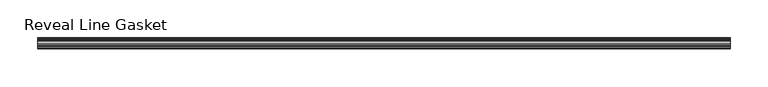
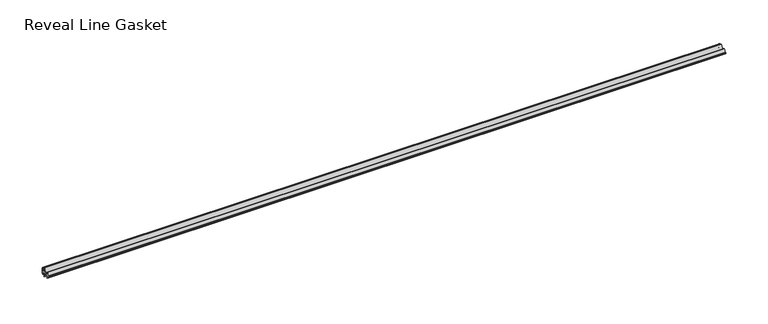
"""IFC4 building model written with IfcOpenShell, lengths in millimetres: proxy geometry, Accessories-Teknion-FHGR-AI_Healthcare-Reveal_Line_Gasket(Horizontal)-R2022 : Reveal Line Gasket."""

import ifcopenshell
import ifcopenshell.guid

model = None  # the IFC model being written
_history = None  # IfcOwnerHistory: only IFC2X3 demands one
_inside = {}  # id of a spatial element -> (the spatial element, [elements in it])
_under = {}  # id of a project, library or spatial element -> (it, [spatial elements below it])
_declared = {}  # id of a project -> (the project, [libraries it declares])
_typed = {}  # id of a type object -> (the type object, [elements of that type])
_made_of = {}  # id of a material, layer set ... -> (it, [elements and type objects made of it])


def new_model(schema):
    """Start an empty IFC model of exactly this schema.

    Asked for "IFC4X3", IfcOpenShell would pick the latest addendum, in which some entities
    have other attributes; the version numbers below select the first issue.
    IFC2X3 requires an IfcOwnerHistory on every rooted entity: one is made here for all.
    """
    global model, _history
    if schema == "IFC4X3":
        model = ifcopenshell.file(schema_version=(4, 3, 0, 0))
    else:
        model = ifcopenshell.file(schema=schema)
    _inside.clear()
    _under.clear()
    _declared.clear()
    _typed.clear()
    _made_of.clear()
    _history = None
    if model.schema == "IFC2X3":
        org = make("IfcOrganization", Name="unknown")
        user = make(
            "IfcPersonAndOrganization",
            ThePerson=make("IfcPerson", FamilyName="unknown"),
            TheOrganization=org,
        )
        app = make(
            "IfcApplication",
            ApplicationDeveloper=org,
            Version="unknown",
            ApplicationFullName="unknown",
            ApplicationIdentifier="unknown",
        )
        _history = make(
            "IfcOwnerHistory",
            OwningUser=user,
            OwningApplication=app,
            ChangeAction="ADDED",
            CreationDate=0,
        )
    return model


def make(cls, **values):
    """One entity of the class cls with the attributes given. An attribute that is None is left unset."""
    return model.create_entity(
        cls, **{name: value for name, value in values.items() if value is not None}
    )


def rooted(cls, **values):
    """An entity with a GlobalId (a new one), such as an element, a storey or a relation."""
    return make(cls, GlobalId=ifcopenshell.guid.new(), OwnerHistory=_history, **values)


def si_unit(unit_type, name, prefix=None):
    """IfcSIUnit, for example si_unit("LENGTHUNIT", "METRE", prefix="MILLI")."""
    return make("IfcSIUnit", UnitType=unit_type, Prefix=prefix, Name=name)


def assignment(units):
    """IfcUnitAssignment: the units of a project."""
    return None if units is None else make("IfcUnitAssignment", Units=units)


def point(xyz):
    """IfcCartesianPoint."""
    return None if xyz is None else make("IfcCartesianPoint", Coordinates=xyz)


def direction(xyz):
    """IfcDirection."""
    return None if xyz is None else make("IfcDirection", DirectionRatios=xyz)


def frame(location, z_axis=None, x_axis=None):
    """IfcAxis2Placement3D, a coordinate frame: its origin and axes. An axis left out is left unset."""
    return make(
        "IfcAxis2Placement3D",
        Location=point(location),
        Axis=direction(z_axis),
        RefDirection=direction(x_axis),
    )


def frame_2d(location, x_axis=None):
    """IfcAxis2Placement2D, a coordinate frame in the plane: its origin and x axis."""
    return make(
        "IfcAxis2Placement2D", Location=point(location), RefDirection=direction(x_axis)
    )


def origin():
    """The frame at (0, 0, 0) with its axes left unset."""
    return frame((0.0, 0.0, 0.0))


def place(relative_to, where):
    """IfcLocalPlacement: puts the frame where relative to a parent placement (None: the world)."""
    return make(
        "IfcLocalPlacement", PlacementRelTo=relative_to, RelativePlacement=where
    )


def context(
    kind, dimensions, precision=None, world=None, true_north=None, identifier=None
):
    """IfcGeometricRepresentationContext, for example the 3D "Model" context."""
    return make(
        "IfcGeometricRepresentationContext",
        ContextIdentifier=identifier,
        ContextType=kind,
        CoordinateSpaceDimension=dimensions,
        Precision=precision,
        WorldCoordinateSystem=world,
        TrueNorth=true_north,
    )


def project(units=None, contexts=None):
    """IfcProject with its units and contexts."""
    return rooted(
        "IfcProject",
        Name="project",
        RepresentationContexts=contexts,
        UnitsInContext=assignment(units),
    )


def spatial(cls, under=None, at=None, **own):
    """A site, building, storey or space (cls), placed at a placement, below another one or the project."""
    s = rooted(cls, ObjectPlacement=at, **own)
    if under is not None:
        _under.setdefault(under.id(), (under, []))[1].append(s)
    return s


def polyline(points):
    """IfcPolyline through the points."""
    return make("IfcPolyline", Points=[point(p) for p in points])


def circle_curve(where, radius):
    """IfcCircle in the frame where."""
    return make("IfcCircle", Position=where, Radius=radius)


def trimmed(basis, trim1, trim2, sense, master):
    """IfcTrimmedCurve: the piece of a basis curve between two trims."""
    return make(
        "IfcTrimmedCurve",
        BasisCurve=basis,
        Trim1=trim1,
        Trim2=trim2,
        SenseAgreement=sense,
        MasterRepresentation=master,
    )


def segment(curve, same_sense, transition):
    """IfcCompositeCurveSegment."""
    return make(
        "IfcCompositeCurveSegment",
        Transition=transition,
        SameSense=same_sense,
        ParentCurve=curve,
    )


def composite_curve(segments, self_intersect=None):
    """IfcCompositeCurve: segments joined end to end."""
    return make("IfcCompositeCurve", Segments=segments, SelfIntersect=self_intersect)


def outline(outer, holes=None, kind="AREA"):
    """IfcArbitraryClosedProfileDef: a profile drawn as a closed curve; with holes, ...WithVoids."""
    if holes is None:
        return make("IfcArbitraryClosedProfileDef", ProfileType=kind, OuterCurve=outer)
    return make(
        "IfcArbitraryProfileDefWithVoids",
        ProfileType=kind,
        OuterCurve=outer,
        InnerCurves=holes,
    )


def extrude(swept, where, along, depth):
    """IfcExtrudedAreaSolid: the profile swept, set in the frame where, extruded along a direction by depth."""
    return make(
        "IfcExtrudedAreaSolid",
        SweptArea=swept,
        Position=where,
        ExtrudedDirection=direction(along),
        Depth=depth,
    )


def shape(context_of_items, identifier, shape_type, items):
    """IfcShapeRepresentation: the items that make up one representation, for example the "Body"."""
    return make(
        "IfcShapeRepresentation",
        ContextOfItems=context_of_items,
        RepresentationIdentifier=identifier,
        RepresentationType=shape_type,
        Items=items,
    )


def source(mapping_origin, context_of_items, identifier, shape_type, items):
    """IfcRepresentationMap: a shape defined once, which mapped items show again and again."""
    return make(
        "IfcRepresentationMap",
        MappingOrigin=mapping_origin,
        MappedRepresentation=shape(context_of_items, identifier, shape_type, items),
    )


def transform(
    local_origin,
    x_axis=None,
    y_axis=None,
    z_axis=None,
    scale=None,
    scale2=None,
    scale3=None,
    uniform=True,
):
    """IfcCartesianTransformationOperator3D, or its non-uniform kind. x_axis, y_axis, z_axis: its Axis1, 2, 3."""
    if uniform:
        return make(
            "IfcCartesianTransformationOperator3D",
            Axis1=direction(x_axis),
            Axis2=direction(y_axis),
            LocalOrigin=point(local_origin),
            Scale=scale,
            Axis3=direction(z_axis),
        )
    return make(
        "IfcCartesianTransformationOperator3DnonUniform",
        Axis1=direction(x_axis),
        Axis2=direction(y_axis),
        LocalOrigin=point(local_origin),
        Scale=scale,
        Axis3=direction(z_axis),
        Scale2=scale2,
        Scale3=scale3,
    )


def mapped(mapping_source, mapping_target):
    """IfcMappedItem: shows the shape of a source again, moved by a transform."""
    return make(
        "IfcMappedItem", MappingSource=mapping_source, MappingTarget=mapping_target
    )


def made_of(thing, what):
    """Note that an element or type object is made of a material, layer set ...; save() writes the relation."""
    if what is not None:
        _made_of.setdefault(what.id(), (what, []))[1].append(thing)
    return thing


def element(
    cls,
    number,
    at=None,
    inside=None,
    cuts=None,
    type_object=None,
    material=None,
    context=None,
    identifier="Body",
    shape_type=None,
    held_by="IfcProductDefinitionShape",
    body=None,
    shapes=None,
    **own,
):
    """One element of the class cls, such as IfcWall. Its Tag is "e" and its number.

    at: its placement. inside: the storey or other place that contains it. cuts: it is an
    opening in that element (IfcRelVoidsElement). A single representation is given by context,
    identifier, shape_type and body (its items); several are given by shapes. held_by: the class
    of the entity that holds the representations. save() writes the other relations.
    """
    e = rooted(cls, Tag="e%d" % number, ObjectPlacement=at, **own)
    if body is not None:
        shapes = [shape(context, identifier, shape_type, body)]
    if shapes is not None:
        e.Representation = make(held_by, Representations=shapes)
    if inside is not None:
        _inside.setdefault(inside.id(), (inside, []))[1].append(e)
    if cuts is not None:
        rooted(
            "IfcRelVoidsElement", RelatingBuildingElement=cuts, RelatedOpeningElement=e
        )
    if type_object is not None:
        _typed.setdefault(type_object.id(), (type_object, []))[1].append(e)
    return made_of(e, material)


def aggregate(whole, parts):
    """IfcRelAggregates: a whole, such as a stair, and the parts it consists of."""
    return rooted("IfcRelAggregates", RelatingObject=whole, RelatedObjects=parts)


def save(model, path):
    """Write the relations noted so far, then the file.

    IfcRelAggregates (storeys below a building ...), IfcRelContainedInSpatialStructure (elements
    in a storey), IfcRelDefinesByType, IfcRelAssociatesMaterial and IfcRelDeclares: one each for
    every whole, place, type object, material and project.
    """
    for whole, parts in _under.values():
        aggregate(whole, parts)
    for where, things in _inside.values():
        rooted(
            "IfcRelContainedInSpatialStructure",
            RelatedElements=things,
            RelatingStructure=where,
        )
    for kind, things in _typed.values():
        rooted("IfcRelDefinesByType", RelatedObjects=things, RelatingType=kind)
    for what, things in _made_of.values():
        rooted("IfcRelAssociatesMaterial", RelatedObjects=things, RelatingMaterial=what)
    for by, libraries in _declared.values():
        rooted("IfcRelDeclares", RelatingContext=by, RelatedDefinitions=libraries)
    model.write(path)


def reveal_line_gasket_ee2313f6(model_context):
    return source(origin(), model_context, "Body", "SweptSolid", [
        extrude(outline(composite_curve([segment(polyline([(7.6326998, 1603.2), (7.6326998, 1597.2), (7.4091917, 1596.2445073), (6.8813059, 1595.3115316)]), True, "CONTINUOUS"), segment(trimmed(circle_curve(frame_2d((6.5243141, 1595.5135207)), 0.4101739), [point((6.8813059, 1595.3115316))], [point((6.1246704, 1595.6058653))], False, "CARTESIAN"), True, "CONTINUOUS"), segment(polyline([(6.1246704, 1595.6058653), (6.3626997, 1597.3020914), (6.3626997, 1599.3345473)]), True, "CONTINUOUS"), segment(trimmed(circle_curve(frame_2d((5.6959605, 1598.9180742)), 0.786124), [point((6.3626997, 1599.3345473))], [point((5.0926996, 1599.422125))], True, "CARTESIAN"), True, "CONTINUOUS"), segment(polyline([(5.0926996, 1599.422125), (0.7492996, 1599.422125), (3.7293824, 1594.2604705)]), True, "CONTINUOUS"), segment(trimmed(circle_curve(frame_2d((3.3132479, 1594.1950239)), 0.4212495), [point((3.7293824, 1594.2604705))], [point((3.0485022, 1593.8673642))], False, "CARTESIAN"), True, "CONTINUOUS"), segment(polyline([(3.0485022, 1593.8673642), (-0.5742594, 1599.422125), (-4.8262978, 1599.422125), (-3.1660374, 1596.5464703)]), True, "CONTINUOUS"), segment(trimmed(circle_curve(frame_2d((-3.5978728, 1596.4881145)), 0.4357605), [point((-3.1660374, 1596.5464703))], [point((-3.864328, 1596.1433119))], False, "CARTESIAN"), True, "CONTINUOUS"), segment(polyline([(-3.864328, 1596.1433119), (-6.1944059, 1599.422125), (-7.6326998, 1599.422125), (-7.6326998, 1600.977875), (-6.1944059, 1600.977875), (-3.864328, 1604.2566881)]), True, "CONTINUOUS"), segment(trimmed(circle_curve(frame_2d((-3.5978728, 1603.9118855)), 0.4357605), [point((-3.864328, 1604.2566881))], [point((-3.1660374, 1603.8535297))], False, "CARTESIAN"), True, "CONTINUOUS"), segment(polyline([(-3.1660374, 1603.8535297), (-4.8262978, 1600.977875), (-0.5742594, 1600.977875), (3.0485022, 1606.5326358)]), True, "CONTINUOUS"), segment(trimmed(circle_curve(frame_2d((3.3132479, 1606.2049761)), 0.4212495), [point((3.0485022, 1606.5326358))], [point((3.7293824, 1606.1395295))], False, "CARTESIAN"), True, "CONTINUOUS"), segment(polyline([(3.7293824, 1606.1395295), (0.7492996, 1600.977875), (5.0926996, 1600.977875)]), True, "CONTINUOUS"), segment(trimmed(circle_curve(frame_2d((5.6959605, 1601.4819258)), 0.786124), [point((5.0926996, 1600.977875))], [point((6.3626997, 1601.0654527))], True, "CARTESIAN"), True, "CONTINUOUS"), segment(polyline([(6.3626997, 1601.0654527), (6.3626997, 1603.0979086), (6.1246704, 1604.7941347)]), True, "CONTINUOUS"), segment(trimmed(circle_curve(frame_2d((6.5243141, 1604.8864793)), 0.4101739), [point((6.1246704, 1604.7941347))], [point((6.8813059, 1605.0884684))], False, "CARTESIAN"), True, "CONTINUOUS"), segment(polyline([(6.8813059, 1605.0884684), (7.4091917, 1604.1554927), (7.6326998, 1603.2)]), True, "CONTINUOUS")], self_intersect=False)), frame((-461.6704, 0.0, 0.0), z_axis=(1.0, 0.0, 0.0), x_axis=(0.0, 1.0, 0.0)), (0.0, 0.0, 1.0), 923.3408),
    ])


if __name__ == "__main__":
    model = new_model("IFC4")
    model_context = context("Model", 3, world=origin())
    ifc_project = project(units=[si_unit("LENGTHUNIT", "METRE", prefix="MILLI")], contexts=[model_context])
    site = spatial("IfcSite", under=ifc_project)
    building = spatial("IfcBuilding", under=site)
    placement = place(None, origin())
    reveal_line_gasket_shape = reveal_line_gasket_ee2313f6(model_context)
    element("IfcBuildingElementProxy", 1, Name="Accessories-Teknion-FHGR-AI_Healthcare-Reveal_Line_Gasket(Horizontal)-R2022 : Reveal Line Gasket", ObjectType="Accessories-Teknion-FHGR-AI_Healthcare-Reveal_Line_Gasket(Horizontal)-R2022 : Reveal Line Gasket", at=placement, inside=building, context=model_context, shape_type="MappedRepresentation", body=[
        mapped(reveal_line_gasket_shape, transform((0.0, 0.0, 0.0), x_axis=(1.0, 0.0, 0.0), y_axis=(0.0, 1.0, 0.0), z_axis=(0.0, 0.0, 1.0))),
    ])
    save(model, "model.ifc")
